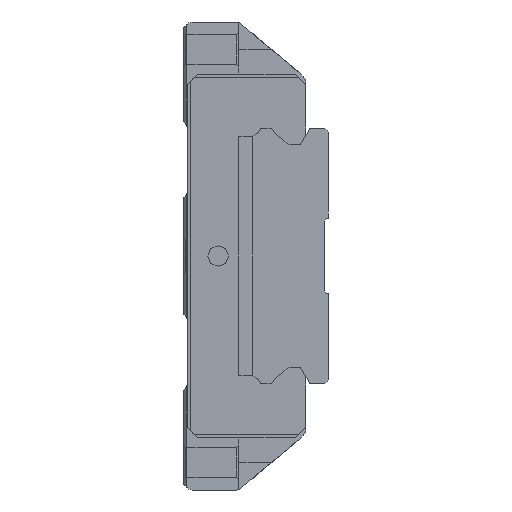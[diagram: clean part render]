
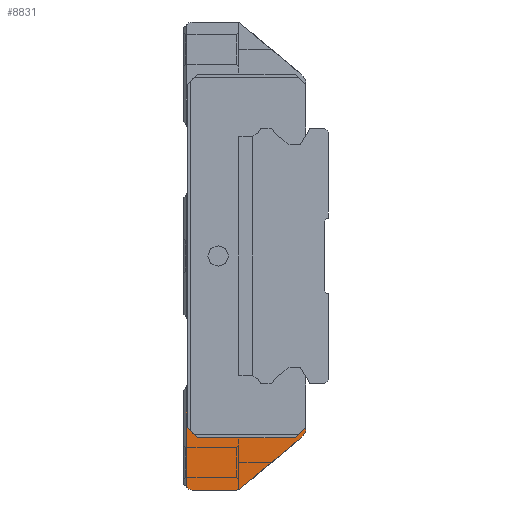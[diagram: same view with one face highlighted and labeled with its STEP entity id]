
A CAD part, left-side view. The second image highlights one B-rep face of the part: STEP entity #8831.
In plain terms, the highlighted planar face has unit normal (-1, 0, 0).
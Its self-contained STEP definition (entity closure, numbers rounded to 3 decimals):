
#568=CIRCLE('',#9953,1.);
#585=CIRCLE('',#9989,1.);
#586=CIRCLE('',#9990,1.);
#587=CIRCLE('',#9991,2.);
#2411=ORIENTED_EDGE('',*,*,#3802,.T.);
#2412=ORIENTED_EDGE('',*,*,#3721,.F.);
#2413=ORIENTED_EDGE('',*,*,#3803,.F.);
#2414=ORIENTED_EDGE('',*,*,#3804,.F.);
#2415=ORIENTED_EDGE('',*,*,#3805,.F.);
#2416=ORIENTED_EDGE('',*,*,#3806,.F.);
#2417=ORIENTED_EDGE('',*,*,#3807,.F.);
#2418=ORIENTED_EDGE('',*,*,#3808,.F.);
#2419=ORIENTED_EDGE('',*,*,#3809,.T.);
#2420=ORIENTED_EDGE('',*,*,#3810,.T.);
#2421=ORIENTED_EDGE('',*,*,#3811,.T.);
#2422=ORIENTED_EDGE('',*,*,#3812,.T.);
#2423=ORIENTED_EDGE('',*,*,#3735,.T.);
#3721=EDGE_CURVE('',#4695,#4696,#5078,.T.);
#3735=EDGE_CURVE('',#4707,#4706,#568,.T.);
#3802=EDGE_CURVE('',#4706,#4696,#5131,.T.);
#3803=EDGE_CURVE('',#4760,#4695,#585,.T.);
#3804=EDGE_CURVE('',#4761,#4760,#5132,.T.);
#3805=EDGE_CURVE('',#4762,#4761,#586,.T.);
#3806=EDGE_CURVE('',#4763,#4762,#5133,.T.);
#3807=EDGE_CURVE('',#4764,#4763,#587,.T.);
#3808=EDGE_CURVE('',#4765,#4764,#5134,.T.);
#3809=EDGE_CURVE('',#4765,#4766,#5135,.T.);
#3810=EDGE_CURVE('',#4766,#4767,#5136,.T.);
#3811=EDGE_CURVE('',#4767,#4768,#5137,.T.);
#3812=EDGE_CURVE('',#4768,#4707,#5138,.T.);
#4695=VERTEX_POINT('',#14687);
#4696=VERTEX_POINT('',#14689);
#4706=VERTEX_POINT('',#14715);
#4707=VERTEX_POINT('',#14717);
#4760=VERTEX_POINT('',#14851);
#4761=VERTEX_POINT('',#14853);
#4762=VERTEX_POINT('',#14855);
#4763=VERTEX_POINT('',#14857);
#4764=VERTEX_POINT('',#14859);
#4765=VERTEX_POINT('',#14861);
#4766=VERTEX_POINT('',#14863);
#4767=VERTEX_POINT('',#14865);
#4768=VERTEX_POINT('',#14867);
#5078=LINE('',#14688,#5473);
#5131=LINE('',#14849,#5526);
#5132=LINE('',#14852,#5527);
#5133=LINE('',#14856,#5528);
#5134=LINE('',#14860,#5529);
#5135=LINE('',#14862,#5530);
#5136=LINE('',#14864,#5531);
#5137=LINE('',#14866,#5532);
#5138=LINE('',#14868,#5533);
#5473=VECTOR('',#12241,1000.);
#5526=VECTOR('',#12382,1000.);
#5527=VECTOR('',#12385,1000.);
#5528=VECTOR('',#12388,1000.);
#5529=VECTOR('',#12391,1000.);
#5530=VECTOR('',#12392,1000.);
#5531=VECTOR('',#12393,1000.);
#5532=VECTOR('',#12394,1000.);
#5533=VECTOR('',#12395,1000.);
#6783=EDGE_LOOP('',(#2411,#2412,#2413,#2414,#2415,#2416,#2417,#2418,#2419,
#2420,#2421,#2422,#2423));
#7982=FACE_BOUND('',#6783,.T.);
#8309=PLANE('',#9988);
#8831=ADVANCED_FACE('',(#7982),#8309,.F.);
#9953=AXIS2_PLACEMENT_3D('',#14716,#12266,#12267);
#9988=AXIS2_PLACEMENT_3D('',#14848,#12380,#12381);
#9989=AXIS2_PLACEMENT_3D('',#14850,#12383,#12384);
#9990=AXIS2_PLACEMENT_3D('',#14854,#12386,#12387);
#9991=AXIS2_PLACEMENT_3D('',#14858,#12389,#12390);
#12241=DIRECTION('',(0.,0.707,0.707));
#12266=DIRECTION('',(1.,0.,0.));
#12267=DIRECTION('',(0.,0.,-1.));
#12380=DIRECTION('',(1.,0.,0.));
#12381=DIRECTION('',(0.,0.,-1.));
#12382=DIRECTION('',(0.,0.,-1.));
#12383=DIRECTION('',(1.,0.,0.));
#12384=DIRECTION('',(0.,0.,-1.));
#12385=DIRECTION('',(0.,1.,0.));
#12386=DIRECTION('',(1.,0.,0.));
#12387=DIRECTION('',(0.,0.,-1.));
#12388=DIRECTION('',(0.,0.766,-0.643));
#12389=DIRECTION('',(1.,0.,0.));
#12390=DIRECTION('',(0.,0.,-1.));
#12391=DIRECTION('',(0.,0.,-1.));
#12392=DIRECTION('',(0.,0.707,-0.707));
#12393=DIRECTION('',(0.,1.,0.));
#12394=DIRECTION('',(0.,0.707,0.707));
#12395=DIRECTION('',(0.,0.,1.));
#14687=CARTESIAN_POINT('',(-21.8,17.193,-33.707));
#14688=CARTESIAN_POINT('',(-21.8,17.193,-33.707));
#14689=CARTESIAN_POINT('',(-21.8,17.3,-33.6));
#14715=CARTESIAN_POINT('',(-21.8,17.3,-19.022));
#14716=CARTESIAN_POINT('',(-21.8,18.2,-18.586));
#14717=CARTESIAN_POINT('',(-21.8,17.2,-18.586));
#14848=CARTESIAN_POINT('',(-21.8,16.486,33.));
#14849=CARTESIAN_POINT('',(-21.8,17.3,68.));
#14850=CARTESIAN_POINT('',(-21.8,16.486,-33.));
#14851=CARTESIAN_POINT('',(-21.8,16.486,-34.));
#14852=CARTESIAN_POINT('',(-21.8,10.064,-34.));
#14853=CARTESIAN_POINT('',(-21.8,10.064,-34.));
#14854=CARTESIAN_POINT('',(-21.8,10.064,-33.));
#14855=CARTESIAN_POINT('',(-21.8,9.421,-33.766));
#14856=CARTESIAN_POINT('',(-21.8,0.614,-26.376));
#14857=CARTESIAN_POINT('',(-21.8,0.614,-26.376));
#14858=CARTESIAN_POINT('',(-21.8,1.9,-24.844));
#14859=CARTESIAN_POINT('',(-21.8,0.,-25.468));
#14860=CARTESIAN_POINT('',(-21.8,0.,25.468));
#14861=CARTESIAN_POINT('',(-21.8,0.,-24.9));
#14862=CARTESIAN_POINT('',(-21.8,0.,-24.9));
#14863=CARTESIAN_POINT('',(-21.8,1.5,-26.4));
#14864=CARTESIAN_POINT('',(-21.8,1.5,-26.4));
#14865=CARTESIAN_POINT('',(-21.8,15.7,-26.4));
#14866=CARTESIAN_POINT('',(-21.8,15.7,-26.4));
#14867=CARTESIAN_POINT('',(-21.8,17.2,-24.9));
#14868=CARTESIAN_POINT('',(-21.8,17.2,-24.9));
